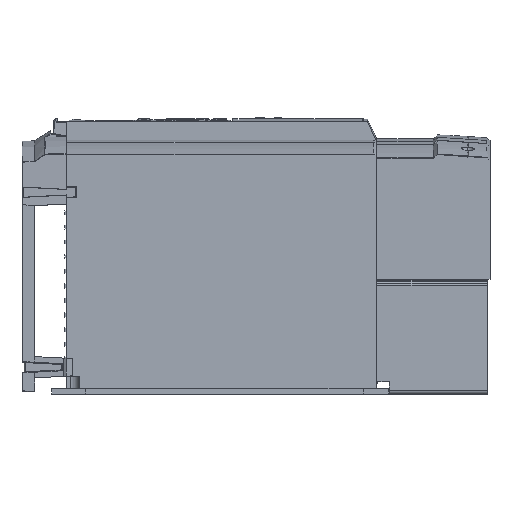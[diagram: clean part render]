
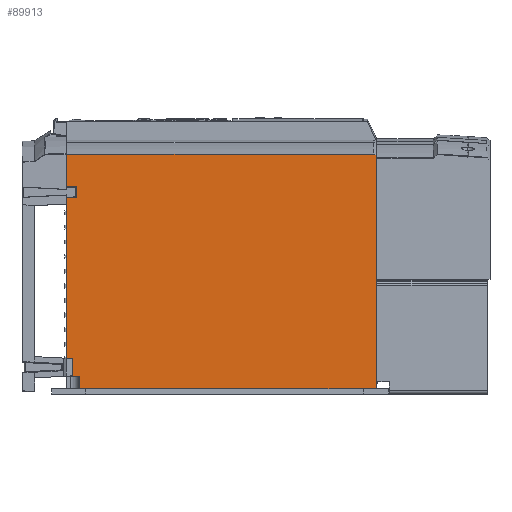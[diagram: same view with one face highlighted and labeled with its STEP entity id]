
A CAD part, left-side view. The second image highlights one B-rep face of the part: STEP entity #89913.
In plain terms, the highlighted planar face has unit normal (-1, 0, 0).
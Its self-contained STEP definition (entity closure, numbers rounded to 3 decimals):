
#2336=DIRECTION('',(0.,0.,1.));
#2337=VECTOR('',#2336,26.);
#2338=CARTESIAN_POINT('',(-130.54,-12.,164.698));
#2339=LINE('',#2338,#2337);
#2394=DIRECTION('',(0.,0.,1.));
#2395=VECTOR('',#2394,127.872);
#2396=CARTESIAN_POINT('',(-130.54,-12.,28.426));
#2397=LINE('',#2396,#2395);
#2422=DIRECTION('',(0.,0.,1.));
#2423=VECTOR('',#2422,0.174);
#2424=CARTESIAN_POINT('',(-130.54,-12.,14.));
#2425=LINE('',#2424,#2423);
#7745=CARTESIAN_POINT('',(-130.54,-258.,
189.652));
#7746=CARTESIAN_POINT('',(-130.54,-257.668,
189.825));
#7747=CARTESIAN_POINT('',(-130.54,-257.002,
190.174));
#7748=CARTESIAN_POINT('',(-130.54,-256.334,
190.523));
#7749=CARTESIAN_POINT('',(-130.54,-256.,
190.698));
#7754=DIRECTION('',(0.,1.,0.));
#7755=VECTOR('',#7754,236.);
#7756=CARTESIAN_POINT('',(-130.54,-258.,4.));
#7757=LINE('',#7756,#7755);
#7761=DIRECTION('',(0.,0.,1.));
#7762=VECTOR('',#7761,10.);
#7763=CARTESIAN_POINT('',(-130.54,-22.,4.));
#7764=LINE('',#7763,#7762);
#7768=DIRECTION('',(0.,-1.,0.));
#7769=VECTOR('',#7768,10.);
#7770=CARTESIAN_POINT('',(-130.54,-12.,14.));
#7771=LINE('',#7770,#7769);
#7775=DIRECTION('',(0.,-0.999,0.052));
#7776=VECTOR('',#7775,4.483);
#7777=CARTESIAN_POINT('',(-130.54,-12.,14.174));
#7778=LINE('',#7777,#7776);
#7782=DIRECTION('',(0.,0.,-1.));
#7783=VECTOR('',#7782,13.782);
#7784=CARTESIAN_POINT('',(-130.54,-16.477,28.191));
#7785=LINE('',#7784,#7783);
#7789=DIRECTION('',(0.,-0.999,-0.052));
#7790=VECTOR('',#7789,4.483);
#7791=CARTESIAN_POINT('',(-130.54,-12.,28.426));
#7792=LINE('',#7791,#7790);
#7796=DIRECTION('',(0.,-1.,0.));
#7797=VECTOR('',#7796,8.);
#7798=CARTESIAN_POINT('',(-130.54,-12.,156.298));
#7799=LINE('',#7798,#7797);
#7803=DIRECTION('',(0.,0.,1.));
#7804=VECTOR('',#7803,8.4);
#7805=CARTESIAN_POINT('',(-130.54,-20.,156.298));
#7806=LINE('',#7805,#7804);
#7810=DIRECTION('',(0.,-1.,0.));
#7811=VECTOR('',#7810,8.);
#7812=CARTESIAN_POINT('',(-130.54,-12.,164.698));
#7813=LINE('',#7812,#7811);
#7825=DIRECTION('',(0.,1.,0.));
#7826=VECTOR('',#7825,244.);
#7827=CARTESIAN_POINT('',(-130.54,-256.,
190.698));
#7828=LINE('',#7827,#7826);
#22144=DIRECTION('',(0.,0.,1.));
#22145=VECTOR('',#22144,185.652);
#22146=CARTESIAN_POINT('',(-130.54,-258.,4.));
#22147=LINE('',#22146,#22145);
#73796=CARTESIAN_POINT('',(-130.54,-12.,190.698));
#73798=VERTEX_POINT('',#73796);
#73818=CARTESIAN_POINT('',(-130.54,-258.,4.));
#73819=VERTEX_POINT('',#73818);
#76598=CARTESIAN_POINT('',(-130.54,-12.,14.));
#76600=VERTEX_POINT('',#76598);
#76604=CARTESIAN_POINT('',(-130.54,-22.,4.));
#76605=CARTESIAN_POINT('',(-130.54,-22.,14.));
#76606=VERTEX_POINT('',#76604);
#76607=VERTEX_POINT('',#76605);
#77849=CARTESIAN_POINT('',(-130.54,-12.,164.698));
#77851=VERTEX_POINT('',#77849);
#77853=CARTESIAN_POINT('',(-130.54,-12.,156.298));
#77854=CARTESIAN_POINT('',(-130.54,-20.,156.298));
#77855=VERTEX_POINT('',#77853);
#77856=VERTEX_POINT('',#77854);
#77857=CARTESIAN_POINT('',(-130.54,-20.,164.698));
#77858=VERTEX_POINT('',#77857);
#80958=CARTESIAN_POINT('',(-130.54,-12.,28.426));
#80960=VERTEX_POINT('',#80958);
#80970=CARTESIAN_POINT('',(-130.54,-16.477,28.191));
#80971=VERTEX_POINT('',#80970);
#80972=CARTESIAN_POINT('',(-130.54,-16.477,14.409));
#80973=VERTEX_POINT('',#80972);
#81037=CARTESIAN_POINT('',(-130.54,-12.,14.174));
#81038=VERTEX_POINT('',#81037);
#81642=VERTEX_POINT('',#7745);
#81643=VERTEX_POINT('',#7749);
#89881=CARTESIAN_POINT('',(-130.54,-258.,4.));
#89882=DIRECTION('',(-1.,0.,0.));
#89883=DIRECTION('',(0.,0.,1.));
#89884=AXIS2_PLACEMENT_3D('',#89881,#89882,#89883);
#89885=PLANE('',#89884);
#89887=ORIENTED_EDGE('',*,*,#89886,.F.);
#89889=ORIENTED_EDGE('',*,*,#89888,.F.);
#89891=ORIENTED_EDGE('',*,*,#89890,.T.);
#89893=ORIENTED_EDGE('',*,*,#89892,.T.);
#89895=ORIENTED_EDGE('',*,*,#89894,.F.);
#89896=ORIENTED_EDGE('',*,*,#84693,.T.);
#89898=ORIENTED_EDGE('',*,*,#89897,.T.);
#89900=ORIENTED_EDGE('',*,*,#89899,.F.);
#89902=ORIENTED_EDGE('',*,*,#89901,.F.);
#89903=ORIENTED_EDGE('',*,*,#84685,.T.);
#89904=ORIENTED_EDGE('',*,*,#89862,.T.);
#89905=ORIENTED_EDGE('',*,*,#89872,.T.);
#89907=ORIENTED_EDGE('',*,*,#89906,.F.);
#89908=ORIENTED_EDGE('',*,*,#84670,.T.);
#89910=ORIENTED_EDGE('',*,*,#89909,.F.);
#89911=EDGE_LOOP('',(#89887,#89889,#89891,#89893,#89895,#89896,#89898,#89900,
#89902,#89903,#89904,#89905,#89907,#89908,#89910));
#89912=FACE_OUTER_BOUND('',#89911,.F.);
#89913=ADVANCED_FACE('',(#89912),#89885,.T.);
#7750=B_SPLINE_CURVE_WITH_KNOTS('',3,(#7745,#7746,#7747,#7748,#7749),
.UNSPECIFIED.,.F.,.F.,(4,1,4),(0.,0.5,1.),.UNSPECIFIED.);
#84670=EDGE_CURVE('',#77851,#73798,#2339,.T.);
#84685=EDGE_CURVE('',#80960,#77855,#2397,.T.);
#84693=EDGE_CURVE('',#76600,#81038,#2425,.T.);
#89862=EDGE_CURVE('',#77855,#77856,#7799,.T.);
#89872=EDGE_CURVE('',#77856,#77858,#7806,.T.);
#89886=EDGE_CURVE('',#81642,#81643,#7750,.T.);
#89888=EDGE_CURVE('',#73819,#81642,#22147,.T.);
#89890=EDGE_CURVE('',#73819,#76606,#7757,.T.);
#89892=EDGE_CURVE('',#76606,#76607,#7764,.T.);
#89894=EDGE_CURVE('',#76600,#76607,#7771,.T.);
#89897=EDGE_CURVE('',#81038,#80973,#7778,.T.);
#89899=EDGE_CURVE('',#80971,#80973,#7785,.T.);
#89901=EDGE_CURVE('',#80960,#80971,#7792,.T.);
#89906=EDGE_CURVE('',#77851,#77858,#7813,.T.);
#89909=EDGE_CURVE('',#81643,#73798,#7828,.T.);
